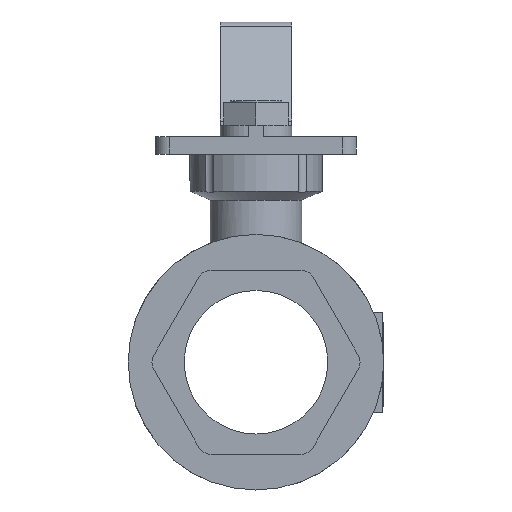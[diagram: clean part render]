
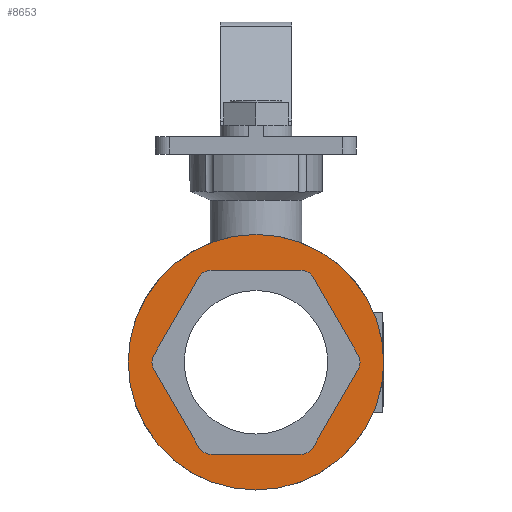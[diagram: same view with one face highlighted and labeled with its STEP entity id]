
A CAD part, front view. The second image highlights one B-rep face of the part: STEP entity #8653.
In plain terms, the highlighted planar face has unit normal (0, -1, 0).
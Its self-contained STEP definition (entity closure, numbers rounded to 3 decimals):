
#8653=ADVANCED_FACE('',(#15333,#15335),#15337,.T.);
#15333=FACE_BOUND('',#15334,.T.);
#15334=EDGE_LOOP('',(#20846,#20847));
#15335=FACE_BOUND('',#15336,.T.);
#15336=EDGE_LOOP('',(#20848,#20849,#20850,#20851,#20852,#20853,#20854,#20855,#20856,
#20857,#20858,#20859));
#15337=PLANE('',#15338);
#15338=AXIS2_PLACEMENT_3D('',#15339,#15340,#15341);
#15339=CARTESIAN_POINT('',(2730.512,1198.796,7.5));
#15340=DIRECTION('',(0.,-1.,0.));
#15341=DIRECTION('',(1.,0.,0.));
#20846=ORIENTED_EDGE('',*,*,#23589,.F.);
#20847=ORIENTED_EDGE('',*,*,#23588,.F.);
#20848=ORIENTED_EDGE('',*,*,#23405,.T.);
#20849=ORIENTED_EDGE('',*,*,#23403,.F.);
#20850=ORIENTED_EDGE('',*,*,#23592,.T.);
#20851=ORIENTED_EDGE('',*,*,#23396,.F.);
#20852=ORIENTED_EDGE('',*,*,#23394,.T.);
#20853=ORIENTED_EDGE('',*,*,#23392,.F.);
#20854=ORIENTED_EDGE('',*,*,#23593,.T.);
#20855=ORIENTED_EDGE('',*,*,#23375,.F.);
#20856=ORIENTED_EDGE('',*,*,#23379,.T.);
#20857=ORIENTED_EDGE('',*,*,#23399,.F.);
#20858=ORIENTED_EDGE('',*,*,#23401,.T.);
#20859=ORIENTED_EDGE('',*,*,#23407,.F.);
#23375=EDGE_CURVE('',#27819,#27821,#27822,.F.);
#23379=EDGE_CURVE('',#27819,#27826,#27828,.T.);
#23392=EDGE_CURVE('',#27850,#27852,#27853,.F.);
#23394=EDGE_CURVE('',#27855,#27852,#27856,.T.);
#23396=EDGE_CURVE('',#27855,#27858,#27859,.F.);
#23399=EDGE_CURVE('',#27861,#27826,#27863,.F.);
#23401=EDGE_CURVE('',#27861,#27864,#27866,.T.);
#23403=EDGE_CURVE('',#27867,#27869,#27870,.F.);
#23405=EDGE_CURVE('',#27872,#27869,#27873,.T.);
#23407=EDGE_CURVE('',#27872,#27864,#27875,.F.);
#23588=EDGE_CURVE('',#28179,#28180,#28181,.T.);
#23589=EDGE_CURVE('',#28180,#28179,#28182,.T.);
#23592=EDGE_CURVE('',#27867,#27858,#28186,.T.);
#23593=EDGE_CURVE('',#27850,#27821,#28187,.T.);
#27819=VERTEX_POINT('',#37481);
#27821=VERTEX_POINT('',#37485);
#27822=CIRCLE('',#37486,5.);
#27826=VERTEX_POINT('',#37497);
#27828=LINE('',#37501,#37502);
#27850=VERTEX_POINT('',#37553);
#27852=VERTEX_POINT('',#37557);
#27853=CIRCLE('',#37558,5.);
#27855=VERTEX_POINT('',#37565);
#27856=LINE('',#37566,#37567);
#27858=VERTEX_POINT('',#37572);
#27859=CIRCLE('',#37573,5.);
#27861=VERTEX_POINT('',#37580);
#27863=CIRCLE('',#37584,5.);
#27864=VERTEX_POINT('',#37588);
#27866=LINE('',#37592,#37593);
#27867=VERTEX_POINT('',#37595);
#27869=VERTEX_POINT('',#37599);
#27870=CIRCLE('',#37600,5.);
#27872=VERTEX_POINT('',#37607);
#27873=LINE('',#37608,#37609);
#27875=CIRCLE('',#37614,5.);
#28179=VERTEX_POINT('',#38938);
#28180=VERTEX_POINT('',#38939);
#28181=CIRCLE('',#38940,44.5);
#28182=CIRCLE('',#38944,44.5);
#28186=LINE('',#38957,#38958);
#28187=LINE('',#38960,#38961);
#37481=CARTESIAN_POINT('',(2710.569,1198.796,-66.543));
#37485=CARTESIAN_POINT('',(2714.899,1198.796,-69.043));
#37486=AXIS2_PLACEMENT_3D('',#37487,#37488,#37489);
#37487=CARTESIAN_POINT('',(2714.899,1198.796,-64.043));
#37488=DIRECTION('',(0.,1.,0.));
#37489=DIRECTION('',(0.,0.,-1.));
#37497=CARTESIAN_POINT('',(2694.956,1198.796,-39.5));
#37501=CARTESIAN_POINT('',(2710.569,1198.796,-66.543));
#37502=VECTOR('',#37503,1.);
#37503=DIRECTION('',(-0.5,0.,0.866));
#37553=CARTESIAN_POINT('',(2746.125,1198.796,-69.043));
#37557=CARTESIAN_POINT('',(2750.456,1198.796,-66.543));
#37558=AXIS2_PLACEMENT_3D('',#37559,#37560,#37561);
#37559=CARTESIAN_POINT('',(2746.125,1198.796,-64.043));
#37560=DIRECTION('',(0.,1.,0.));
#37561=DIRECTION('',(0.866,0.,-0.5));
#37565=CARTESIAN_POINT('',(2766.069,1198.796,-39.5));
#37566=CARTESIAN_POINT('',(2766.069,1198.796,-39.5));
#37567=VECTOR('',#37568,1.);
#37568=DIRECTION('',(-0.5,0.,-0.866));
#37572=CARTESIAN_POINT('',(2766.069,1198.796,-34.5));
#37573=AXIS2_PLACEMENT_3D('',#37574,#37575,#37576);
#37574=CARTESIAN_POINT('',(2761.739,1198.796,-37.));
#37575=DIRECTION('',(0.,1.,0.));
#37576=DIRECTION('',(0.866,0.,0.5));
#37580=CARTESIAN_POINT('',(2694.956,1198.796,-34.5));
#37584=AXIS2_PLACEMENT_3D('',#37585,#37586,#37587);
#37585=CARTESIAN_POINT('',(2699.286,1198.796,-37.));
#37586=DIRECTION('',(0.,1.,0.));
#37587=DIRECTION('',(-0.866,0.,-0.5));
#37588=CARTESIAN_POINT('',(2710.569,1198.796,-7.457));
#37592=CARTESIAN_POINT('',(2694.956,1198.796,-34.5));
#37593=VECTOR('',#37594,1.);
#37594=DIRECTION('',(0.5,0.,0.866));
#37595=CARTESIAN_POINT('',(2750.456,1198.796,-7.457));
#37599=CARTESIAN_POINT('',(2746.125,1198.796,-4.957));
#37600=AXIS2_PLACEMENT_3D('',#37601,#37602,#37603);
#37601=CARTESIAN_POINT('',(2746.125,1198.796,-9.957));
#37602=DIRECTION('',(0.,1.,0.));
#37603=DIRECTION('',(0.,0.,1.));
#37607=CARTESIAN_POINT('',(2714.899,1198.796,-4.957));
#37608=CARTESIAN_POINT('',(2714.899,1198.796,-4.957));
#37609=VECTOR('',#37610,1.);
#37610=DIRECTION('',(1.,0.,0.));
#37614=AXIS2_PLACEMENT_3D('',#37615,#37616,#37617);
#37615=CARTESIAN_POINT('',(2714.899,1198.796,-9.957));
#37616=DIRECTION('',(0.,1.,0.));
#37617=DIRECTION('',(-0.866,0.,0.5));
#38938=CARTESIAN_POINT('',(2730.512,1198.796,7.5));
#38939=CARTESIAN_POINT('',(2730.352,1198.796,-81.5));
#38940=AXIS2_PLACEMENT_3D('',#38941,#38942,#38943);
#38941=CARTESIAN_POINT('',(2730.512,1198.796,-37.));
#38942=DIRECTION('',(0.,1.,0.));
#38943=DIRECTION('',(0.,0.,1.));
#38944=AXIS2_PLACEMENT_3D('',#38945,#38946,#38947);
#38945=CARTESIAN_POINT('',(2730.512,1198.796,-37.));
#38946=DIRECTION('',(0.,1.,0.));
#38947=DIRECTION('',(-0.004,0.,-1.));
#38957=CARTESIAN_POINT('',(2750.456,1198.796,-7.457));
#38958=VECTOR('',#38959,1.);
#38959=DIRECTION('',(0.5,0.,-0.866));
#38960=CARTESIAN_POINT('',(2746.125,1198.796,-69.043));
#38961=VECTOR('',#38962,1.);
#38962=DIRECTION('',(-1.,0.,0.));
